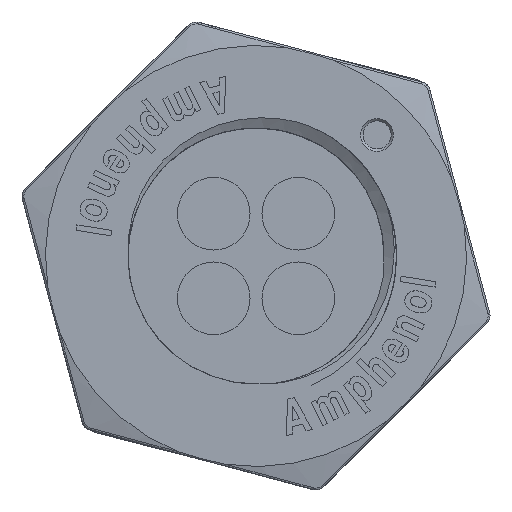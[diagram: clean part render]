
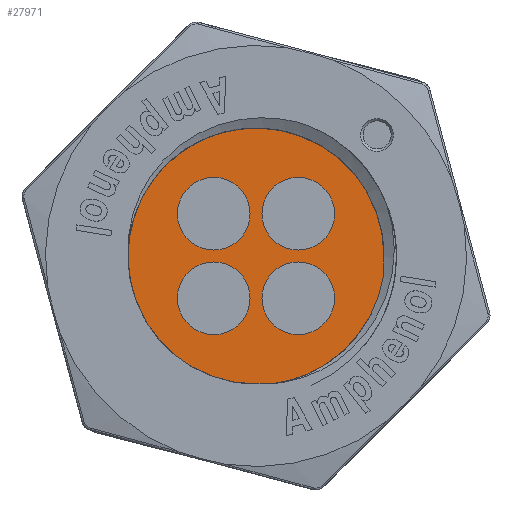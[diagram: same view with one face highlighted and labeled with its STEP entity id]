
A CAD part, left-side view. The second image highlights one B-rep face of the part: STEP entity #27971.
In plain terms, the highlighted planar face has unit normal (-1, 0, 0).
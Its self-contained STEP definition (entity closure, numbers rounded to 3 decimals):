
#2565=CARTESIAN_POINT('',(-19.5,-5.438,-0.82));
#2566=CARTESIAN_POINT('',(-19.5,-5.445,-0.752));
#2567=CARTESIAN_POINT('',(-19.5,-5.456,-0.614));
#2568=CARTESIAN_POINT('',(-19.5,-5.465,-0.408));
#2569=CARTESIAN_POINT('',(-19.5,-5.466,-0.201));
#2570=CARTESIAN_POINT('',(-19.5,-5.462,-0.064));
#2571=CARTESIAN_POINT('',(-19.5,-5.458,0.005));
#2615=CARTESIAN_POINT('',(-19.5,-0.005,5.458));
#2616=CARTESIAN_POINT('',(-19.5,0.064,5.462));
#2617=CARTESIAN_POINT('',(-19.5,0.201,5.466));
#2618=CARTESIAN_POINT('',(-19.5,0.408,5.465));
#2619=CARTESIAN_POINT('',(-19.5,0.615,5.456));
#2620=CARTESIAN_POINT('',(-19.5,0.752,5.445));
#2621=CARTESIAN_POINT('',(-19.5,0.82,5.438));
#3182=CARTESIAN_POINT('',(-19.5,0.,0.));
#3183=DIRECTION('',(-1.,0.,0.));
#3184=DIRECTION('',(0.,-1.,0.001));
#3185=AXIS2_PLACEMENT_3D('',#3182,#3183,#3184);
#20266=CARTESIAN_POINT('',(-19.5,0.,0.));
#20267=DIRECTION('',(-1.,0.,0.));
#20268=DIRECTION('',(0.,0.149,0.989));
#20269=AXIS2_PLACEMENT_3D('',#20266,#20267,#20268);
#20418=CARTESIAN_POINT('',(-19.5,-1.803,1.803));
#20419=DIRECTION('',(-1.,0.,0.));
#20420=DIRECTION('',(0.,0.,-1.));
#20421=AXIS2_PLACEMENT_3D('',#20418,#20419,#20420);
#20428=CARTESIAN_POINT('',(-19.5,-1.803,1.803));
#20429=DIRECTION('',(-1.,0.,0.));
#20430=DIRECTION('',(0.,0.,1.));
#20431=AXIS2_PLACEMENT_3D('',#20428,#20429,#20430);
#20446=CARTESIAN_POINT('',(-19.5,-1.803,-1.803));
#20447=DIRECTION('',(-1.,0.,0.));
#20448=DIRECTION('',(0.,1.,0.));
#20449=AXIS2_PLACEMENT_3D('',#20446,#20447,#20448);
#20456=CARTESIAN_POINT('',(-19.5,-1.803,-1.803));
#20457=DIRECTION('',(-1.,0.,0.));
#20458=DIRECTION('',(0.,-1.,0.));
#20459=AXIS2_PLACEMENT_3D('',#20456,#20457,#20458);
#20474=CARTESIAN_POINT('',(-19.5,1.803,-1.803));
#20475=DIRECTION('',(-1.,0.,0.));
#20476=DIRECTION('',(0.,0.,1.));
#20477=AXIS2_PLACEMENT_3D('',#20474,#20475,#20476);
#20484=CARTESIAN_POINT('',(-19.5,1.803,-1.803));
#20485=DIRECTION('',(-1.,0.,0.));
#20486=DIRECTION('',(0.,0.,-1.));
#20487=AXIS2_PLACEMENT_3D('',#20484,#20485,#20486);
#20502=CARTESIAN_POINT('',(-19.5,1.803,1.803));
#20503=DIRECTION('',(-1.,0.,0.));
#20504=DIRECTION('',(0.,-1.,0.));
#20505=AXIS2_PLACEMENT_3D('',#20502,#20503,#20504);
#20512=CARTESIAN_POINT('',(-19.5,1.803,1.803));
#20513=DIRECTION('',(-1.,0.,0.));
#20514=DIRECTION('',(0.,1.,0.));
#20515=AXIS2_PLACEMENT_3D('',#20512,#20513,#20514);
#23321=CARTESIAN_POINT('',(-19.5,-5.458,0.005));
#23322=CARTESIAN_POINT('',(-19.5,-0.005,5.458));
#23323=VERTEX_POINT('',#23321);
#23324=VERTEX_POINT('',#23322);
#23326=VERTEX_POINT('',#2565);
#23330=VERTEX_POINT('',#2621);
#23352=CARTESIAN_POINT('',(-19.5,-1.803,0.253));
#23353=CARTESIAN_POINT('',(-19.5,-1.803,3.353));
#23354=VERTEX_POINT('',#23352);
#23355=VERTEX_POINT('',#23353);
#23356=CARTESIAN_POINT('',(-19.5,-0.253,-1.803));
#23357=CARTESIAN_POINT('',(-19.5,-3.353,-1.803));
#23358=VERTEX_POINT('',#23356);
#23359=VERTEX_POINT('',#23357);
#23360=CARTESIAN_POINT('',(-19.5,1.803,-0.253));
#23361=CARTESIAN_POINT('',(-19.5,1.803,-3.353));
#23362=VERTEX_POINT('',#23360);
#23363=VERTEX_POINT('',#23361);
#23364=CARTESIAN_POINT('',(-19.5,0.253,1.803));
#23365=CARTESIAN_POINT('',(-19.5,3.353,1.803));
#23366=VERTEX_POINT('',#23364);
#23367=VERTEX_POINT('',#23365);
#27934=CARTESIAN_POINT('',(-19.5,0.,0.));
#27935=DIRECTION('',(-1.,0.,0.));
#27936=DIRECTION('',(0.,1.,0.));
#27937=AXIS2_PLACEMENT_3D('',#27934,#27935,#27936);
#27938=PLANE('',#27937);
#27940=ORIENTED_EDGE('',*,*,#27939,.F.);
#27941=ORIENTED_EDGE('',*,*,#27348,.F.);
#27943=ORIENTED_EDGE('',*,*,#27942,.F.);
#27944=ORIENTED_EDGE('',*,*,#27908,.F.);
#27945=EDGE_LOOP('',(#27940,#27941,#27943,#27944));
#27946=FACE_OUTER_BOUND('',#27945,.F.);
#27948=ORIENTED_EDGE('',*,*,#27947,.T.);
#27950=ORIENTED_EDGE('',*,*,#27949,.T.);
#27951=EDGE_LOOP('',(#27948,#27950));
#27952=FACE_BOUND('',#27951,.F.);
#27954=ORIENTED_EDGE('',*,*,#27953,.T.);
#27956=ORIENTED_EDGE('',*,*,#27955,.T.);
#27957=EDGE_LOOP('',(#27954,#27956));
#27958=FACE_BOUND('',#27957,.F.);
#27960=ORIENTED_EDGE('',*,*,#27959,.T.);
#27962=ORIENTED_EDGE('',*,*,#27961,.T.);
#27963=EDGE_LOOP('',(#27960,#27962));
#27964=FACE_BOUND('',#27963,.F.);
#27966=ORIENTED_EDGE('',*,*,#27965,.T.);
#27968=ORIENTED_EDGE('',*,*,#27967,.T.);
#27969=EDGE_LOOP('',(#27966,#27968));
#27970=FACE_BOUND('',#27969,.F.);
#27971=ADVANCED_FACE('',(#27946,#27952,#27958,#27964,#27970),#27938,.T.);
#2572=B_SPLINE_CURVE_WITH_KNOTS('',3,(#2565,#2566,#2567,#2568,#2569,#2570,
#2571),.UNSPECIFIED.,.F.,.F.,(4,1,1,1,4),(0.,0.25,0.5,0.75,1.),
.UNSPECIFIED.);
#2622=B_SPLINE_CURVE_WITH_KNOTS('',3,(#2615,#2616,#2617,#2618,#2619,#2620,
#2621),.UNSPECIFIED.,.F.,.F.,(4,1,1,1,4),(0.,0.25,0.5,0.75,1.),
.UNSPECIFIED.);
#3186=CIRCLE('',#3185,5.459);
#20270=CIRCLE('',#20269,5.5);
#20422=CIRCLE('',#20421,1.55);
#20432=CIRCLE('',#20431,1.55);
#20450=CIRCLE('',#20449,1.55);
#20460=CIRCLE('',#20459,1.55);
#20478=CIRCLE('',#20477,1.55);
#20488=CIRCLE('',#20487,1.55);
#20506=CIRCLE('',#20505,1.55);
#20516=CIRCLE('',#20515,1.55);
#27348=EDGE_CURVE('',#23326,#23323,#2572,.T.);
#27908=EDGE_CURVE('',#23324,#23330,#2622,.T.);
#27939=EDGE_CURVE('',#23323,#23324,#3186,.T.);
#27942=EDGE_CURVE('',#23330,#23326,#20270,.T.);
#27947=EDGE_CURVE('',#23354,#23355,#20422,.T.);
#27949=EDGE_CURVE('',#23355,#23354,#20432,.T.);
#27953=EDGE_CURVE('',#23358,#23359,#20450,.T.);
#27955=EDGE_CURVE('',#23359,#23358,#20460,.T.);
#27959=EDGE_CURVE('',#23362,#23363,#20478,.T.);
#27961=EDGE_CURVE('',#23363,#23362,#20488,.T.);
#27965=EDGE_CURVE('',#23366,#23367,#20506,.T.);
#27967=EDGE_CURVE('',#23367,#23366,#20516,.T.);
